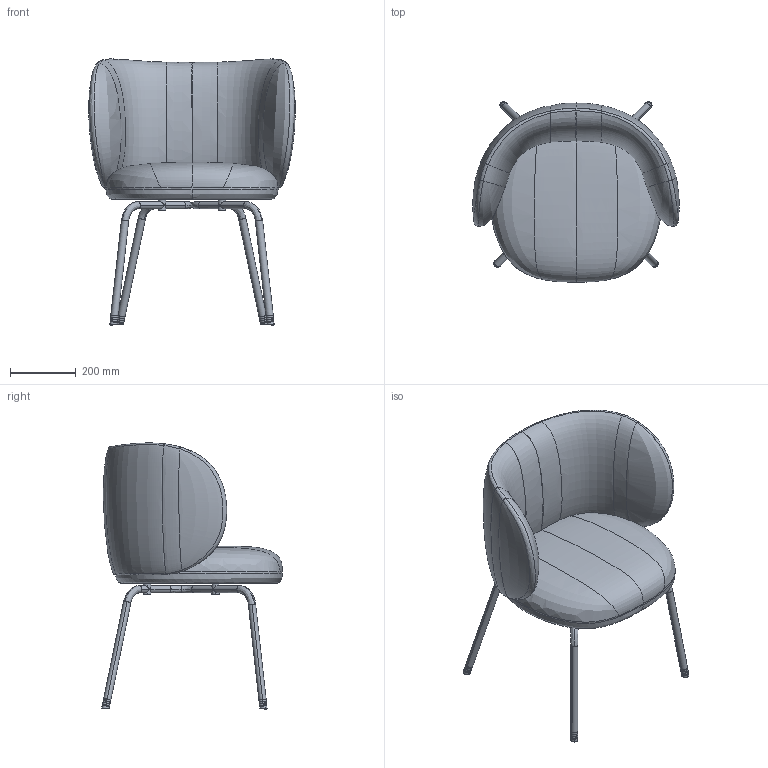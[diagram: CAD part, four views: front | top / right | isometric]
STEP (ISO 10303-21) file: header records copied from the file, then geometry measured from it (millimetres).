
FILE_DESCRIPTION(/* description */ (''),/* implementation_level */ '2;1');
FILE_NAME(/* name */ 'Rico dining chair_4 legs_3D',/* time_stamp */ '2023-10-05T15:23:45+02:00',/* author */ (''),/* organization */ (''),/* preprocessor_version */ 'ST-DEVELOPER v16.5',/* originating_system */ 'Rhino 7.33',/* authorisation */ '');
FILE_SCHEMA (('CONFIG_CONTROL_DESIGN'));
Length unit declared in the file: millimetre
Products named in the file (4): Document; wireframe_rep_0; Block 012
Assembly tree (3 placements, depth 3):
  Document
    Document
      wireframe_rep_0
      Block 012
Bounding box: 626.48 x 548.1 x 807.27 mm (x, y, z)
Volume: 20883371.3 mm3; surface area: 2288224.6 mm2
Topology: 23 solids, 26 shells, 563 faces, 1303 edges, 834 vertices
Faces by surface type: cylinder 254, bspline 175, plane 134
Entity records: 97462 total; most frequent: CARTESIAN_POINT 88685, ORIENTED_EDGE 2582, EDGE_CURVE 1300, VERTEX_POINT 830, EDGE_LOOP 673, ADVANCED_FACE 563, FACE_OUTER_BOUND 563, B_SPLINE_CURVE_WITH_KNOTS 503
